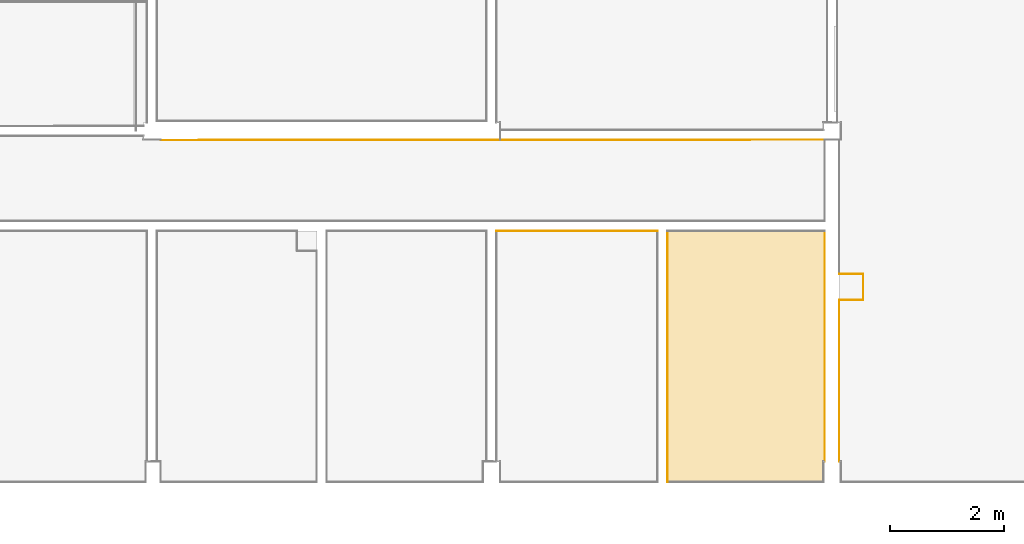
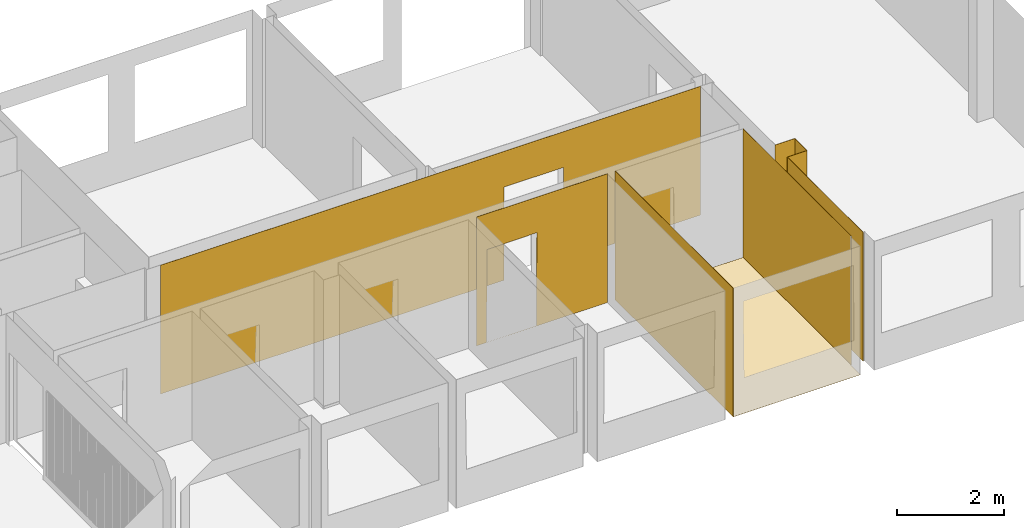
# One storey, part 19 of 33: 9 coverings, 2 openings.
"""IFC2X3 building model written with IfcOpenShell, lengths in millimetres."""

from ifc_helpers import new_model, entity, si_unit, converted_unit, derived_unit, money_unit, direction, frame, origin_with_axes, origin_2d_with_axis, place, context, subcontext, project, spatial, polyline, rectangle, outline, extrude, material, type_object, element, save


model = new_model("IFC2X3")

# Units and contexts
model_context = context("Model", 3, precision=0.01, world=origin_with_axes(), true_north=direction((0.0, 1.0)))
body_context = subcontext(model_context, "Body", "Model", "MODEL_VIEW")
ifc_project = project(units=[si_unit("LENGTHUNIT", "METRE", prefix="MILLI"), si_unit("AREAUNIT", "SQUARE_METRE"), si_unit("VOLUMEUNIT", "CUBIC_METRE"), converted_unit("PLANEANGLEUNIT", "DEGREE", entity("IfcPlaneAngleMeasure", 0.0174532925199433), si_unit("PLANEANGLEUNIT", "RADIAN"), dimensions=[0, 0, 0, 0, 0, 0, 0]), money_unit("EUR"), converted_unit("TIMEUNIT", "Year", entity("IfcTimeMeasure", 31556926.0), si_unit("TIMEUNIT", "SECOND"), dimensions=[0, 0, 1, 0, 0, 0, 0]), si_unit("MASSUNIT", "GRAM", prefix="KILO"), si_unit("THERMODYNAMICTEMPERATUREUNIT", "DEGREE_CELSIUS"), si_unit("LUMINOUSINTENSITYUNIT", "LUMEN"), si_unit("ENERGYUNIT", "JOULE", prefix="MEGA"), derived_unit("THERMALCONDUCTANCEUNIT", [(si_unit("POWERUNIT", "WATT"), 1), (si_unit("LENGTHUNIT", "METRE"), -1), (si_unit("THERMODYNAMICTEMPERATUREUNIT", "KELVIN"), -1)]), derived_unit("SPECIFICHEATCAPACITYUNIT", [(si_unit("ENERGYUNIT", "JOULE"), 1), (si_unit("MASSUNIT", "GRAM", prefix="KILO"), -1), (si_unit("THERMODYNAMICTEMPERATUREUNIT", "KELVIN"), -1)]), derived_unit("MASSDENSITYUNIT", [(si_unit("MASSUNIT", "GRAM", prefix="KILO"), 1), (si_unit("VOLUMEUNIT", "CUBIC_METRE"), -1)])], contexts=[model_context])

# Site, building, storey
site_placement = place(None, origin_with_axes())
site = spatial("IfcSite", under=ifc_project, at=site_placement, Name="Paldiski mnt 245/1, Tallinn, Harjumaa", CompositionType="COMPLEX")
building_placement = place(site_placement, origin_with_axes())
building = spatial("IfcBuilding", under=site, at=building_placement, Name="RKAS Hoone üldnimetus (kasutust iseloomustav) -> IFC Project Manager -> SOLIBRI", CompositionType="ELEMENT")
storey_placement = place(building_placement, origin_with_axes())
storey = spatial("IfcBuildingStorey", under=building, at=storey_placement, Name="Esimene korrus", CompositionType="ELEMENT", Elevation=0.0)

# Coverings
ifc_material_1 = material(Name="SA- Värv SM5(valge)")
covering_type_1 = type_object("IfcCoveringType", Name="SA- Värv SM5(valge) 5", PredefinedType="CLADDING")
covering_1_placement = place(storey_placement, frame((-23589.99999943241, -12150.08408437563, 0.0), z_axis=(0.0, 0.0, 1.0), x_axis=(-1.558196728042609e-08, 0.9999999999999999, 0.0)))
element("IfcCovering", 1, at=covering_1_placement, inside=storey, type_object=covering_type_1, material=ifc_material_1, Name="SM5", PredefinedType="CLADDING", context=body_context, shape_type="SweptSolid", body=[
    extrude(outline(polyline([(0.0, 0.0), (4065.084084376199, 0.0), (4065.084084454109, 4.999999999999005), (4.999999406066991, 5.000000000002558), (0.0, 0.0)])), origin_with_axes(), (0.0, 0.0, 1.0), 2950.0),
])
covering_2_placement = place(storey_placement, frame((-26365.00000000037, -8084.999999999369, 0.0), z_axis=(0.0, 0.0, 1.0), x_axis=(0.0, -1.0, 0.0)))
element("IfcCovering", 2, at=covering_2_placement, inside=storey, type_object=covering_type_1, material=ifc_material_1, Name="SM5", PredefinedType="CLADDING", context=body_context, shape_type="SweptSolid", body=[
    extrude(outline(polyline([(0.0, 0.0), (4425.084301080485, 0.0), (4425.084301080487, 4.999999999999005), (0.0, 4.999999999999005), (0.0, 0.0)])), origin_with_axes(), (0.0, 0.0, 1.0), 2950.0),
])

# Covering, opening
ifc_material_2 = material(Name="SA- Värv SM6(kollane)")
covering_type_2 = type_object("IfcCoveringType", Name="SA- Värv SM6(kollane) 5", PredefinedType="CLADDING")
covering_3_placement = place(storey_placement, frame((-29375.00000000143, -8084.999999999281, 0.0), z_axis=(0.0, 0.0, 1.0), x_axis=(1.0, 0.0, 0.0)))
covering_3 = element("IfcCovering", 3, at=covering_3_placement, inside=storey, type_object=covering_type_2, material=ifc_material_2, Name="SM6", PredefinedType="CLADDING", context=body_context, shape_type="SweptSolid", body=[
    extrude(outline(polyline([(0.0, -5.000000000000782), (2840.000000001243, -5.000000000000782), (2840.000000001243, 0.0), (0.0, 0.0), (0.0, -5.000000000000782)])), origin_with_axes(), (0.0, 0.0, 1.0), 2950.0),
])
opening_1_placement = place(covering_3_placement, frame((29375.00000000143, 8084.999999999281, 0.0), z_axis=(0.0, 0.0, 1.0), x_axis=(1.0, 0.0, 0.0)))
element("IfcOpeningElement", 4, at=opening_1_placement, cuts=covering_3, Name="AVA", ObjectType="OPENING", context=body_context, shape_type="SweptSolid", body=[
    extrude(outline(polyline([(-545.8400765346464, -1068.288262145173), (535.2321227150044, -1065.288262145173), (545.8400765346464, 1068.288262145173), (-534.1975756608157, 1057.636187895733), (-545.8400765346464, -1068.288262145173)])), frame((-28609.72342698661, -8079.999999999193, 1068.288262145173), z_axis=(0.0, -1.0, 0.0), x_axis=(1.0, 0.0, 0.0)), (0.0, 0.0, 1.0), 15.00000000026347),
])

ifc_material_3 = material(Name="SA- Värv SM7(beez)")
covering_type_3 = type_object("IfcCoveringType", Name="SA- Värv SM7(beez) 5", PredefinedType="CLADDING")
covering_4_placement = place(storey_placement, frame((-23594.99993971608, -6479.999968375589, 0.0), z_axis=(0.0, 0.0, 1.0), x_axis=(-0.9999998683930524, -0.0005130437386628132, 0.0)))
covering_4 = element("IfcCovering", 5, at=covering_4_placement, inside=storey, type_object=covering_type_3, material=ifc_material_3, Name="SM7", PredefinedType="CLADDING", context=body_context, shape_type="SweptSolid", body=[
    extrude(outline(polyline([(0.0, 0.0), (11695.00158798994, 0.0), (11695.00158798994, 4.999999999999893), (0.0, 4.999999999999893), (0.0, 0.0)])), origin_with_axes(), (0.0, 0.0, 1.0), 2950.0),
])
opening_2_placement = place(covering_4_placement, frame((-23598.32135786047, -6467.893848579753, 0.0), z_axis=(0.0, 0.0, 1.0), x_axis=(-0.9999998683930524, 0.0005130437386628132, 0.0)))
element("IfcOpeningElement", 6, at=opening_2_placement, cuts=covering_4, Name="AVA", ObjectType="OPENING", context=body_context, shape_type="SweptSolid", body=[
    extrude(rectangle(XDim=1296.772335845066, YDim=2132.71162002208, at=origin_2d_with_axis()), frame((-27206.33935183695, -6468.999921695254, 1066.35581001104), z_axis=(-0.000513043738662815, 0.9999998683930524, 0.0), x_axis=(-0.9999998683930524, -0.000513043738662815, 0.0)), (0.0, 0.0, -1.0), 33.0001443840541),
])

# Coverings
ifc_material_4 = material(Name="SA- PM-6 vinüül")
covering_type_4 = type_object("IfcCoveringType", Name="SA- PM-6 vinüül 3", PredefinedType="FLOORING")
covering_5_placement = place(storey_placement, frame((-23610.00000000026, -12510.08408706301, 0.0), z_axis=(0.0, 0.0, 1.0), x_axis=(1.0, 0.0, 0.0)))
element("IfcCovering", 7, at=covering_5_placement, inside=storey, type_object=covering_type_4, material=ifc_material_4, Name="PM-6", PredefinedType="FLOORING", context=body_context, shape_type="SweptSolid", body=[
    extrude(outline(polyline([(0.0, 0.0), (0.0, 359.9999999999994), (20.00005998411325, 360.0000000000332), (20.00000000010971, 4425.084087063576), (-2755.000000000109, 4425.084087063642), (-2755.000000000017, -0.0002140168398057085), (0.0, 0.0)])), origin_with_axes(), (0.0, 0.0, 1.0), 3.0),
])
ifc_material_5 = material(Name="SA- Värv SM12(tolmutõke)")
covering_type_5 = type_object("IfcCoveringType", Name="SA- Värv SM12(tolmutõke) 5", PredefinedType="CLADDING")
covering_6_placement = place(storey_placement, frame((-22915.00000000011, -8850.084087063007, 0.0), z_axis=(0.0, 0.0, 1.0), x_axis=(0.0, -1.0, 0.0)))
element("IfcCovering", 8, at=covering_6_placement, inside=storey, type_object=covering_type_5, material=ifc_material_5, Name="SM12", PredefinedType="CLADDING", context=body_context, shape_type="SweptSolid", body=[
    extrude(outline(polyline([(0.0, 0.0), (450.0000000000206, 0.0), (455.0000000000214, 4.999999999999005), (-5.000000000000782, 4.999999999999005), (0.0, 0.0)])), origin_with_axes(), (0.0, 0.0, 1.0), 2950.0),
])
covering_7_placement = place(storey_placement, frame((-23340.00000000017, -8850.084087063, 0.0), z_axis=(0.0, 0.0, 1.0), x_axis=(1.0, 0.0, 0.0)))
element("IfcCovering", 9, at=covering_7_placement, inside=storey, type_object=covering_type_5, material=ifc_material_5, Name="SM12", PredefinedType="CLADDING", context=body_context, shape_type="SweptSolid", body=[
    extrude(outline(polyline([(0.0, 0.0), (425.000000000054, 0.0), (430.000000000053, 5.000000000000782), (0.0, 5.000000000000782), (0.0, 0.0)])), origin_with_axes(), (0.0, 0.0, 1.0), 2950.0),
])
covering_8_placement = place(storey_placement, frame((-22915.00000000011, -9300.084087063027, 0.0), z_axis=(0.0, 0.0, 1.0), x_axis=(-1.0, 0.0, 0.0)))
element("IfcCovering", 10, at=covering_8_placement, inside=storey, type_object=covering_type_5, material=ifc_material_5, Name="SM12", PredefinedType="CLADDING", context=body_context, shape_type="SweptSolid", body=[
    extrude(outline(polyline([(0.0, 0.0), (425.0000000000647, 0.0), (425.0000000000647, 5.000000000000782), (-4.999999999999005, 5.000000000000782), (0.0, 0.0)])), origin_with_axes(), (0.0, 0.0, 1.0), 2950.0),
])
covering_9_placement = place(storey_placement, frame((-23340.00000000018, -9300.084087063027, 0.0), z_axis=(0.0, 0.0, 1.0), x_axis=(0.0, -1.0, 0.0)))
element("IfcCovering", 11, at=covering_9_placement, inside=storey, type_object=covering_type_5, material=ifc_material_5, Name="SM12", PredefinedType="CLADDING", context=body_context, shape_type="SweptSolid", body=[
    extrude(outline(polyline([(0.0, 0.0), (2849.999999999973, 0.0), (2849.999999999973, 4.999999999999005), (5.000000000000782, 4.999999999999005), (0.0, 0.0)])), origin_with_axes(), (0.0, 0.0, 1.0), 2950.0),
])

save(model, "model.ifc")
